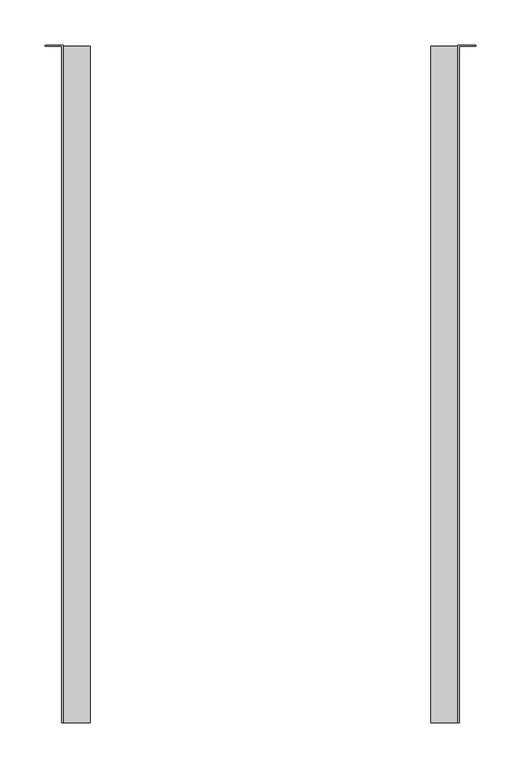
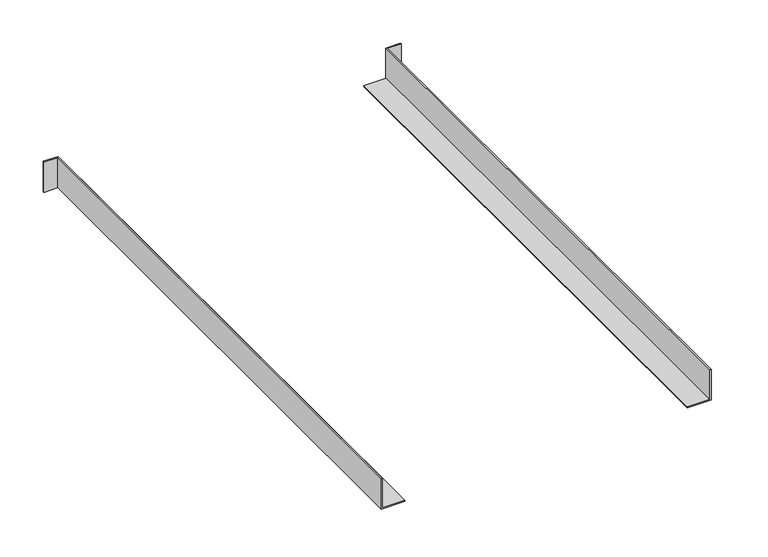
"""IFC4 building model written with IfcOpenShell, lengths in millimetres: proxy geometry, Вл_Монтажный комплект_43мм : Вл_Монтажный комплект_43мм."""

from ifc_helpers import new_model, si_unit, origin, place, context, project, spatial, faceted_brep, source, transform, mapped, element, save


def electrical_equipment_cfbb87c9(model_context):
    return source(origin(), model_context, "Body", "Brep", [
        faceted_brep([(189.0, 750.0, 0.0), (189.0, 750.0, 1.5), (219.0, 750.0, 1.5), (219.0, 750.0, 0.0), (220.5, 0.0, 0.0), (220.5, 0.0, 43.0), (219.0, 0.0, 43.0), (219.0, 0.0, 1.5), (189.0, 0.0, 1.5), (189.0, 0.0, 0.0), (220.5, 750.0, 0.0), (220.5, 750.0, 43.0), (239.0, 750.0, 43.0), (239.0, 751.5, 43.0), (219.0, 751.5, 43.0), (219.0, 751.5, 0.0), (239.0, 751.5, 0.0), (239.0, 750.0, 0.0)], [[[0, 1, 2, 3]], [[4, 5, 6, 7, 8, 9]], [[5, 4, 10, 11]], [[6, 5, 11, 12, 13, 14]], [[7, 6, 14, 15, 3, 2]], [[2, 1, 8, 7]], [[1, 0, 9, 8]], [[4, 9, 0, 3, 15, 16, 17, 10]], [[17, 12, 11, 10]], [[14, 13, 16, 15]], [[13, 12, 17, 16]]]),
        faceted_brep([(-219.0, 750.0, 1.5), (-189.0, 750.0, 1.5), (-189.0, 750.0, 0.0), (-219.0, 750.0, 0.0), (-220.5, 0.0, 0.0), (-189.0, 0.0, 0.0), (-189.0, 0.0, 1.5), (-219.0, 0.0, 1.5), (-219.0, 0.0, 43.0), (-220.5, 0.0, 43.0), (-219.0, 751.5, 43.0), (-239.0, 751.5, 43.0), (-239.0, 750.0, 43.0), (-220.5, 750.0, 43.0), (-239.0, 750.0, 0.0), (-239.0, 751.5, 0.0), (-219.0, 751.5, 0.0), (-220.5, 750.0, 0.0)], [[[0, 1, 2, 3]], [[4, 5, 6, 7, 8, 9]], [[10, 11, 12, 13, 9, 8]], [[14, 15, 16, 3, 2, 5, 4, 17]], [[2, 1, 6, 5]], [[1, 0, 7, 6]], [[10, 8, 7, 0, 3, 16]], [[4, 9, 13, 17]], [[12, 14, 17, 13]], [[12, 11, 15, 14]], [[11, 10, 16, 15]]]),
    ])


if __name__ == "__main__":
    model = new_model("IFC4")
    model_context = context("Model", 3, world=origin())
    ifc_project = project(units=[si_unit("LENGTHUNIT", "METRE", prefix="MILLI")], contexts=[model_context])
    site = spatial("IfcSite", under=ifc_project)
    building = spatial("IfcBuilding", under=site)
    placement = place(None, origin())
    electrical_equipment_shape = electrical_equipment_cfbb87c9(model_context)
    element("IfcBuildingElementProxy", 1, Name="Вл_Монтажный комплект_43мм : Вл_Монтажный комплект_43мм", ObjectType="Вл_Монтажный комплект_43мм : Вл_Монтажный комплект_43мм", at=placement, inside=building, context=model_context, shape_type="MappedRepresentation", body=[
        mapped(electrical_equipment_shape, transform((0.0, 0.0, 0.0), x_axis=(1.0, 0.0, 0.0), y_axis=(0.0, 1.0, 0.0), z_axis=(0.0, 0.0, 1.0))),
    ])
    save(model, "model.ifc")
